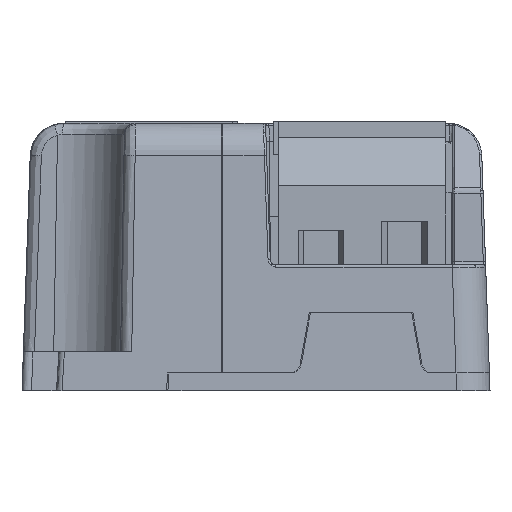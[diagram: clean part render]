
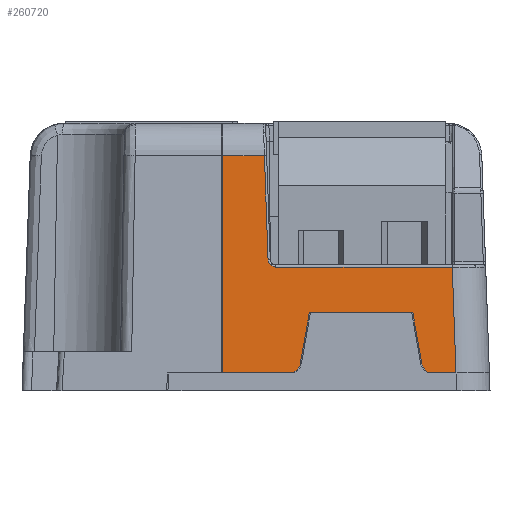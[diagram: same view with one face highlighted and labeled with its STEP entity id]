
A CAD part, left-side view. The second image highlights one B-rep face of the part: STEP entity #260720.
In plain terms, the highlighted planar face has unit normal (-0.999, 0, 0.035) as drawn and (-0.999, 0, -0.035) by its records, which use the part's own axes.
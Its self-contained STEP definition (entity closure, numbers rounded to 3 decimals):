
#218030=CARTESIAN_POINT('',(-247.987,-34.922,-1.6));
#218040=VERTEX_POINT('',#218030);
#218070=CARTESIAN_POINT('',(-247.987,-34.922,
-1.6));
#218080=DIRECTION('',(0.,1.,0.));
#218090=VECTOR('',#218080,1.);
#218100=LINE('',#218070,#218090);
#218110=CARTESIAN_POINT('',(-247.987,-32.843,
-1.6));
#218120=VERTEX_POINT('',#218110);
#218130=EDGE_CURVE('',#218040,#218120,#218100,.T.);
#219410=CARTESIAN_POINT('',(-247.987,-53.789,-1.6));
#219420=VERTEX_POINT('',#219410);
#219450=CARTESIAN_POINT('',(-247.987,-53.789,
-1.6));
#219460=DIRECTION('',(0.,1.,0.));
#219470=VECTOR('',#219460,1.);
#219480=LINE('',#219450,#219470);
#219490=CARTESIAN_POINT('',(-247.987,-47.8,-1.6));
#219500=VERTEX_POINT('',#219490);
#219510=EDGE_CURVE('',#219420,#219500,#219480,.T.);
#219730=CARTESIAN_POINT('',(-247.306,-53.789,
-21.105));
#219740=VERTEX_POINT('',#219730);
#219790=CARTESIAN_POINT('',(-247.987,-53.789,-1.6));
#219800=DIRECTION('',(0.035,0.,-0.999));
#219810=VECTOR('',#219800,1.);
#219820=LINE('',#219790,#219810);
#219830=EDGE_CURVE('',#219420,#219740,#219820,.T.);
#259230=CARTESIAN_POINT('',(-247.655,-49.009,
-11.107));
#259240=VERTEX_POINT('',#259230);
#259270=CARTESIAN_POINT('',(-247.655,-49.009,
-11.107));
#259280=CARTESIAN_POINT('',(-247.655,-49.02,
-11.107));
#259290=CARTESIAN_POINT('',(-247.655,-49.052,
-11.108));
#259300=CARTESIAN_POINT('',(-247.655,-49.106,
-11.113));
#259310=CARTESIAN_POINT('',(-247.655,-49.17,
-11.125));
#259320=CARTESIAN_POINT('',(-247.654,-49.233,
-11.143));
#259330=CARTESIAN_POINT('',(-247.653,-49.292,
-11.166));
#259340=CARTESIAN_POINT('',(-247.652,-49.348,
-11.193));
#259350=CARTESIAN_POINT('',(-247.651,-49.416,
-11.235));
#259360=CARTESIAN_POINT('',(-247.649,-49.463,
-11.272));
#259370=CARTESIAN_POINT('',(-247.648,-49.492,
-11.3));
#259380=B_SPLINE_CURVE_WITH_KNOTS('',3,(#259270,#259280,#259290,#259300,
#259310,#259320,#259330,#259340,#259350,#259360,#259370),.UNSPECIFIED.,
.F.,.F.,(4,1,1,1,1,1,1,1,4),(0.,0.028,
0.084,0.14,0.196,0.252
,0.303,0.355,0.458),.UNSPECIFIED.);
#259390=CARTESIAN_POINT('',(-247.648,-49.492,
-11.3));
#259400=VERTEX_POINT('',#259390);
#259410=EDGE_CURVE('',#259240,#259400,#259380,.T.);
#259730=CARTESIAN_POINT('',(-247.655,-33.175,
-11.107));
#259740=VERTEX_POINT('',#259730);
#259770=CARTESIAN_POINT('',(-247.655,-49.009,
-11.107));
#259780=DIRECTION('',(0.,1.,0.));
#259790=VECTOR('',#259780,1.);
#259800=LINE('',#259770,#259790);
#259810=EDGE_CURVE('',#259240,#259740,#259800,.T.);
#259860=CARTESIAN_POINT('',(-248.043,-67.789,0.));
#259870=DIRECTION('',(0.999,-0.,0.035));
#259880=DIRECTION('',(0.035,0.,-0.999));
#259890=AXIS2_PLACEMENT_3D('',#259860,#259870,#259880);
#259900=PLANE('',#259890);
#259910=CARTESIAN_POINT('',(-247.632,-49.709,
-11.783));
#259920=DIRECTION('',(0.035,-0.035,
-0.999));
#259930=VECTOR('',#259920,1.);
#259940=LINE('',#259910,#259930);
#259950=CARTESIAN_POINT('',(-247.632,-49.709,
-11.783));
#259960=VERTEX_POINT('',#259950);
#259970=CARTESIAN_POINT('',(-247.306,-50.034,
-21.105));
#259980=VERTEX_POINT('',#259970);
#259990=EDGE_CURVE('',#259960,#259980,#259940,.T.);
#260000=ORIENTED_EDGE('',*,*,#259990,.T.);
#260010=CARTESIAN_POINT('',(-247.648,-49.492,
-11.3));
#260020=CARTESIAN_POINT('',(-247.647,-49.534,
-11.34));
#260030=CARTESIAN_POINT('',(-247.645,-49.589,
-11.408));
#260040=CARTESIAN_POINT('',(-247.641,-49.644,
-11.509));
#260050=CARTESIAN_POINT('',(-247.638,-49.676,
-11.588));
#260060=CARTESIAN_POINT('',(-247.636,-49.697,
-11.669));
#260070=CARTESIAN_POINT('',(-247.633,-49.706,
-11.734));
#260080=CARTESIAN_POINT('',(-247.632,-49.708,
-11.772));
#260090=CARTESIAN_POINT('',(-247.632,-49.709,
-11.783));
#260100=B_SPLINE_CURVE_WITH_KNOTS('',3,(#260010,#260020,#260030,#260040,
#260050,#260060,#260070,#260080,#260090),.UNSPECIFIED.,.F.,.F.,(4,1,1,1,
1,1,4),(0.458,0.607,0.681,
0.755,0.826,0.896,0.924)
,.UNSPECIFIED.);
#260110=EDGE_CURVE('',#259400,#259960,#260100,.T.);
#260120=ORIENTED_EDGE('',*,*,#260110,.T.);
#260130=ORIENTED_EDGE('',*,*,#259410,.T.);
#260140=ORIENTED_EDGE('',*,*,#259810,.F.);
#260150=CARTESIAN_POINT('',(-247.987,-32.843,-1.6));
#260160=DIRECTION('',(0.035,-0.035,
-0.999));
#260170=VECTOR('',#260160,1.);
#260180=LINE('',#260150,#260170);
#260190=EDGE_CURVE('',#218120,#259740,#260180,.T.);
#260200=ORIENTED_EDGE('',*,*,#260190,.T.);
#260210=ORIENTED_EDGE('',*,*,#218130,.T.);
#260220=CARTESIAN_POINT('',(-247.952,-34.922,-2.6));
#260230=DIRECTION('',(-0.999,0.,-0.035));
#260240=DIRECTION('',(0.035,0.,-0.999));
#260250=AXIS2_PLACEMENT_3D('',#260220,#260230,#260240);
#260260=ELLIPSE('',#260250,1.001,1.);
#260270=CARTESIAN_POINT('',(-247.958,-35.907,
-2.426));
#260280=VERTEX_POINT('',#260270);
#260290=EDGE_CURVE('',#260280,#218040,#260260,.T.);
#260300=ORIENTED_EDGE('',*,*,#260290,.T.);
#260310=CARTESIAN_POINT('',(-247.799,-36.713,
-7.));
#260320=DIRECTION('',(-0.034,0.174,
0.984));
#260330=VECTOR('',#260320,1.);
#260340=LINE('',#260310,#260330);
#260350=CARTESIAN_POINT('',(-247.799,-36.713,-7.));
#260360=VERTEX_POINT('',#260350);
#260370=EDGE_CURVE('',#260360,#260280,#260340,.T.);
#260380=ORIENTED_EDGE('',*,*,#260370,.T.);
#260390=CARTESIAN_POINT('',(-247.799,-46.009,
-7.));
#260400=DIRECTION('',(0.,1.,0.));
#260410=VECTOR('',#260400,1.);
#260420=LINE('',#260390,#260410);
#260430=CARTESIAN_POINT('',(-247.799,-46.009,-7.));
#260440=VERTEX_POINT('',#260430);
#260450=EDGE_CURVE('',#260440,#260360,#260420,.T.);
#260460=ORIENTED_EDGE('',*,*,#260450,.T.);
#260470=CARTESIAN_POINT('',(-247.958,-46.815,
-2.426));
#260480=DIRECTION('',(0.034,0.174,
-0.984));
#260490=VECTOR('',#260480,1.);
#260500=LINE('',#260470,#260490);
#260510=CARTESIAN_POINT('',(-247.958,-46.815,
-2.426));
#260520=VERTEX_POINT('',#260510);
#260530=EDGE_CURVE('',#260520,#260440,#260500,.T.);
#260540=ORIENTED_EDGE('',*,*,#260530,.T.);
#260550=CARTESIAN_POINT('',(-247.952,-47.8,-2.6));
#260560=DIRECTION('',(-0.999,0.,-0.035));
#260570=DIRECTION('',(-0.035,0.,0.999));
#260580=AXIS2_PLACEMENT_3D('',#260550,#260560,#260570);
#260590=ELLIPSE('',#260580,1.001,1.);
#260600=EDGE_CURVE('',#219500,#260520,#260590,.T.);
#260610=ORIENTED_EDGE('',*,*,#260600,.T.);
#260620=ORIENTED_EDGE('',*,*,#219510,.T.);
#260630=ORIENTED_EDGE('',*,*,#219830,.F.);
#260640=CARTESIAN_POINT('',(-247.306,-53.789,
-21.105));
#260650=DIRECTION('',(0.,1.,0.));
#260660=VECTOR('',#260650,1.);
#260670=LINE('',#260640,#260660);
#260680=EDGE_CURVE('',#219740,#259980,#260670,.T.);
#260690=ORIENTED_EDGE('',*,*,#260680,.F.);
#260700=EDGE_LOOP('',(#260690,#260630,#260620,#260610,#260540,#260460,
#260380,#260300,#260210,#260200,#260140,#260130,#260120,#260000));
#260710=FACE_OUTER_BOUND('',#260700,.T.);
#260720=ADVANCED_FACE('',(#260710),#259900,.F.);
